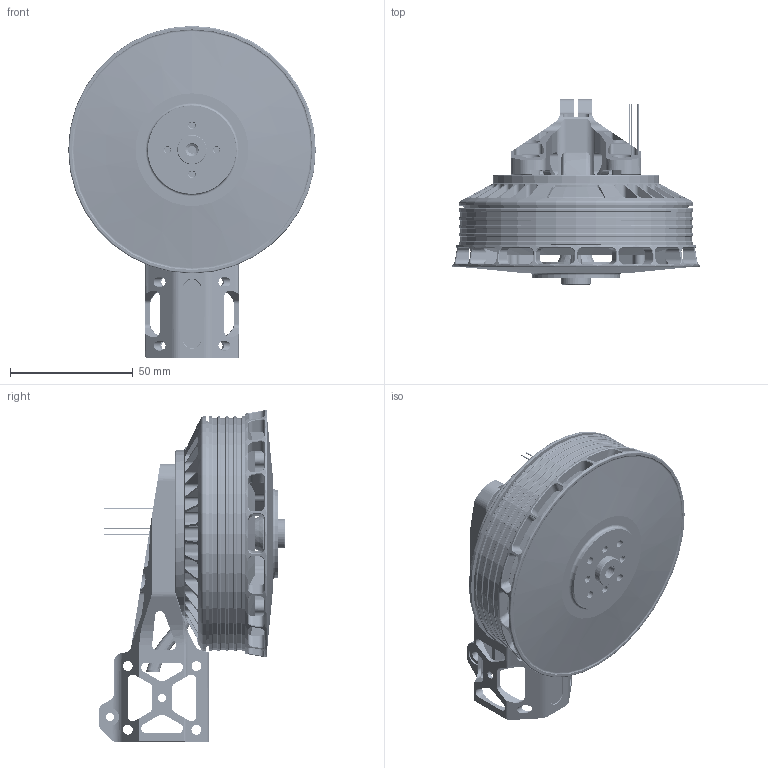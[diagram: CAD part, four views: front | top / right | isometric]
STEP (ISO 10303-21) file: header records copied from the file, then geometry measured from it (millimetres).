
FILE_DESCRIPTION (( 'STEP AP214' ), '1' );
FILE_NAME ('I8珨极趙雄薯-0824.STEP', '2026-08-24T07:57:48', ( '' ), ( '' ), 'SwSTEP 2.0', 'SolidWorks 2022', '' );
FILE_SCHEMA (( 'AUTOMOTIVE_DESIGN' ));
Length unit declared in the file: millimetre
Products named in the file (411): C110; R59; Open_CASCADE_STEP_translator_6.8_27.1.2_2; U9; Terminal_4; LOGO_0.1; L0402; D8; C95; C35; 6360398640; R102; C22; Body; R94; CAP_5X10X20; R42; Mid_Body_3; Open_CASCADE_STEP_translator_7.5_13.4.1; Vishay_Intertechnology-NTCLE203E3202SB0_2k_Thermistor_2-Point_Radial__Leaded_Automotive_Grade_Vishay; Q2; SOD-123F; I8后盖-A; R29; C74; R61; FB7; 1206_SMD_Capacitor; Open_CASCADE_STEP_translator_6.8_27.1.1_3; R111; LOGO圆－０.３; D3; C16; C100; C38; Body_4; User_Library-0201(0603M)_Cap; C0206000157-I77-共轴出线硅胶套带扣-A; C29; Thermal_Shape_6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
Assembly tree (866 placements, depth 6):
  I8一体化动力-0824
    I8电机
      I8定子
        I8后盖-A
        I8铁芯(15CS1200HF)
        C0105000098-轴承22x8x7  x2
      I8转子
        I8钢圈-A
        镀镍弧形磁铁R46-R44.3-10-4.7-N  x21
        镀镍弧形磁铁R46-R44.3-10-4.7-S  x21
        I8钢轴-A
        I9防尘网A-A
        I8前盖-A
        磁铁矫正工装
      I8灯罩-A
      I7锁轴垫片-A
    I8-C-20A-14S_V1.0
      Board
        Open CASCADE STEP translator 6.8 1.1.1
      C114
        0402Y
      C113
        0402Y
      C5
        0402Y
      T1
        User_Library-ALT4532M
      CE3
        CAP_5X10X20
          LOGO_
          CAP_5X10X20
      CE2
        CAP_5X10X20
          LOGO_
          CAP_5X10X20
      U13
        SOT-89-3
      U17
        6465510672
          Open_CASCADE_STEP_translator_6.8_36.1
          Body
            Open_CASCADE_STEP_translator_6.8_36.2.1
          Thermal_Shape
          Pin_Shape  x8
            Open_CASCADE_STEP_translator_6.8_36.4.1
      U16
        6466853168
          Open_CASCADE_STEP_translator_7.5_17.1
          Body_2
            Open_CASCADE_STEP_translator_7.5_17.2.1
          Thermal_Shape_2
          Pin_Shape_2  x48
            Open_CASCADE_STEP_translator_7.5_17.4.1
      R112
        User_Library-RES_0603-0201
      R111
        User_Library-RES_0603-0201
      R110
        User_Library-RES_0603-0201
      R109
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Bounding box: 100.98 x 75.85 x 135.49 mm (x, y, z)
Volume: 131946.1 mm3; surface area: 159856.5 mm2
Topology: 996 solids, 1171 shells, 35720 faces, 91823 edges, 59309 vertices
Faces by surface type: plane 19133, bspline 10935, cylinder 4962, sphere 406, cone 192, torus 92
Entity records: 374393 total; most frequent: CARTESIAN_POINT 137877, ORIENTED_EDGE 37244, DIRECTION 32635, EDGE_CURVE 18675, VERTEX_POINT 12047, AXIS2_PLACEMENT_3D 11076, VECTOR 10483, LINE 10483
